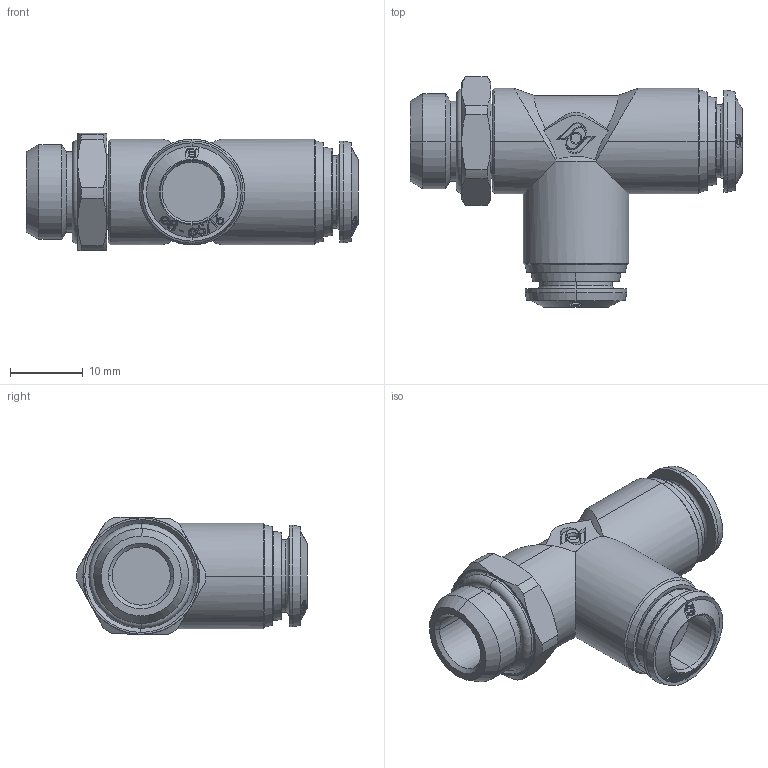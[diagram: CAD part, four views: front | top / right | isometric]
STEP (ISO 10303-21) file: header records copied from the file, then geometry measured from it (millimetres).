
FILE_DESCRIPTION (( 'STEP AP214' ), '1' );
FILE_NAME ('5022600011.step', '2012-10-01T16:51:16', ( '' ), ( '' ), 'SwSTEP 2.0', 'SolidWorks 2012', '' );
FILE_SCHEMA (( 'AUTOMOTIVE_DESIGN' ));
Length unit declared in the file: millimetre
Products named in the file (1): 5022600011
Bounding box: 45.6 x 31.65 x 16.14 mm (x, y, z)
Volume: 8414.2 mm3; surface area: 4492.8 mm2
Topology: 2 solids, 2 shells, 460 faces, 1184 edges, 772 vertices
Faces by surface type: bspline 226, cone 118, plane 55, cylinder 39, torus 22
Entity records: 26207 total; most frequent: CARTESIAN_POINT 17023, ORIENTED_EDGE 2368, EDGE_CURVE 1184, DIRECTION 1076, B_SPLINE_CURVE_WITH_KNOTS 786, VERTEX_POINT 772, EDGE_LOOP 506, FACE_OUTER_BOUND 460
